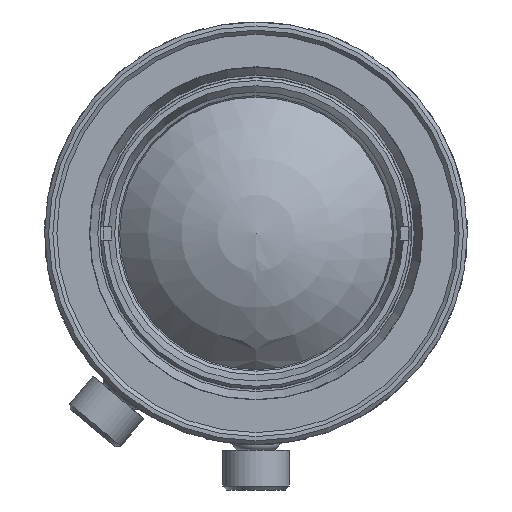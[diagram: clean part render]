
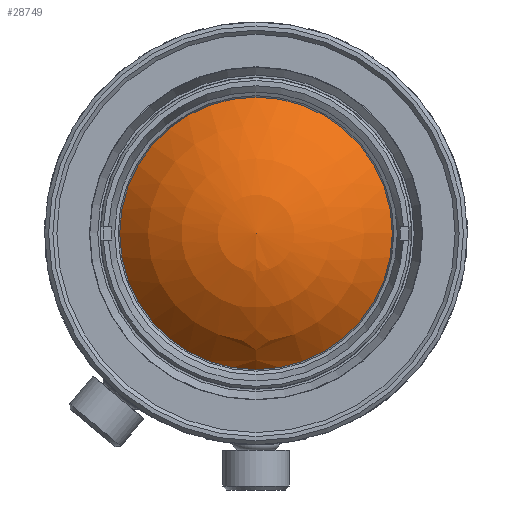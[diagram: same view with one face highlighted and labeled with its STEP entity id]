
A CAD part, front view. The second image highlights one B-rep face of the part: STEP entity #28749.
In plain terms, the highlighted spherical face has radius 13.493 mm.
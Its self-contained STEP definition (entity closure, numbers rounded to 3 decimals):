
#3455=SPHERICAL_SURFACE('',#30584,13.493);
#9611=ORIENTED_EDGE('',*,*,#12605,.F.);
#12605=EDGE_CURVE('',#14611,#14611,#15424,.T.);
#14611=VERTEX_POINT('',#54113);
#15424=CIRCLE('',#30585,10.25);
#16870=EDGE_LOOP('',(#9611));
#18348=FACE_BOUND('',#16870,.T.);
#28749=ADVANCED_FACE('',(#18348),#3455,.T.);
#30584=AXIS2_PLACEMENT_3D('',#54111,#35308,#35309);
#30585=AXIS2_PLACEMENT_3D('',#54112,#35310,#35311);
#35308=DIRECTION('',(0.,1.,0.));
#35309=DIRECTION('',(0.,0.,-1.));
#35310=DIRECTION('',(0.,1.,0.));
#35311=DIRECTION('',(0.,0.,1.));
#54111=CARTESIAN_POINT('',(0.,-41.166,0.));
#54112=CARTESIAN_POINT('',(0.,-49.941,0.));
#54113=CARTESIAN_POINT('',(0.,-49.941,10.25));
